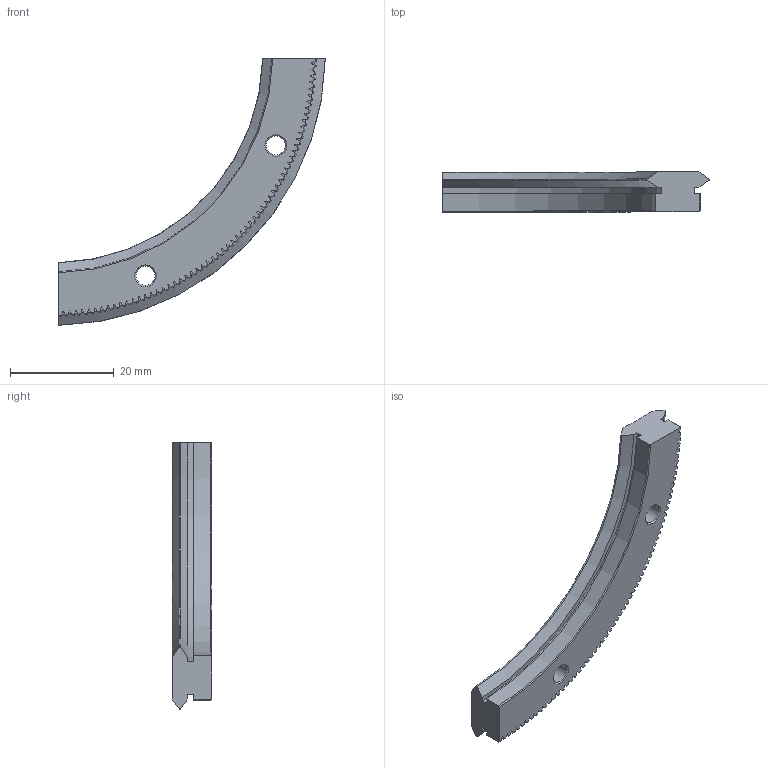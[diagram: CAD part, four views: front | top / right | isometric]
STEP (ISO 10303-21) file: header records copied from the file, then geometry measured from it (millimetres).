
FILE_DESCRIPTION( ( 'STEP AP203' ), '1' );
FILE_NAME( 'p:/temp/worker_34/temp/exporttempdir_4840_83_bZA4I/format_0/R12 93 R90 P.stp', '2021-08-30T04:09:06', ( 'License CC BY-ND 4.0' ), ( 'CADENAS' ), ' ', 'PARTsolutions', ' ' );
FILE_SCHEMA( ( 'CONFIG_CONTROL_DESIGN' ) );
Length unit declared in the file: millimetre
Products named in the file (1): _R12 93 R90 P
Bounding box: 51.54 x 7.7 x 51.54 mm (x, y, z)
Volume: 4488.7 mm3; surface area: 3367.5 mm2
Topology: 1 solids, 1 shells, 335 faces, 991 edges, 660 vertices
Faces by surface type: plane 134, cylinder 130, cone 69, torus 2
Full cylindrical faces by diameter (mm): 3.7 x2, 6 x2
Entity records: 11458 total; most frequent: CARTESIAN_POINT 2415, ORIENTED_EDGE 1970, DIRECTION 1850, EDGE_CURVE 985, AXIS2_PLACEMENT_3D 669, VERTEX_POINT 660, LINE 512, VECTOR 512
